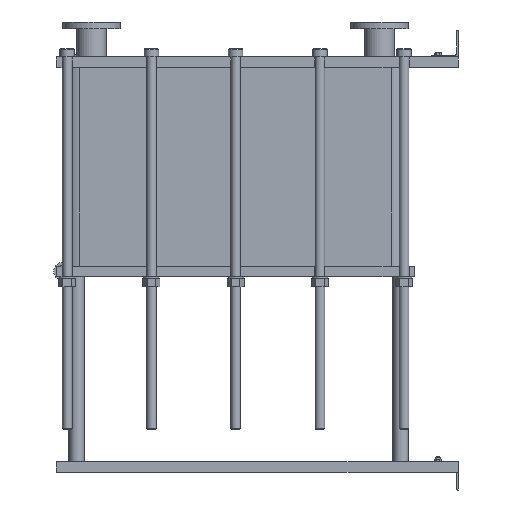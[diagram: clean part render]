
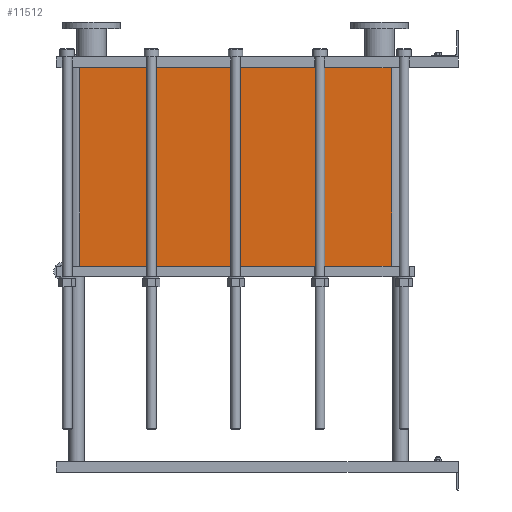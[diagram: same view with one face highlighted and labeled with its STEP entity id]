
A CAD part, left-side view. The second image highlights one B-rep face of the part: STEP entity #11512.
In plain terms, the highlighted planar face has unit normal (-1, 0, 0).
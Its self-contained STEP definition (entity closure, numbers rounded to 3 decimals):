
#1129=LINE('',#23232,#2102);
#1130=LINE('',#23236,#2103);
#1131=LINE('',#23238,#2104);
#1132=LINE('',#23239,#2105);
#2102=VECTOR('',#15887,10.);
#2103=VECTOR('',#15892,10.);
#2104=VECTOR('',#15893,10.);
#2105=VECTOR('',#15894,10.);
#3267=FACE_OUTER_BOUND('',#4093,.T.);
#4093=EDGE_LOOP('',(#10103,#10104,#10105,#10106));
#5642=VERTEX_POINT('',#23229);
#5643=VERTEX_POINT('',#23231);
#5644=VERTEX_POINT('',#23235);
#5645=VERTEX_POINT('',#23237);
#7159=EDGE_CURVE('',#5643,#5642,#1129,.T.);
#7161=EDGE_CURVE('',#5642,#5644,#1130,.T.);
#7162=EDGE_CURVE('',#5645,#5644,#1131,.T.);
#7163=EDGE_CURVE('',#5645,#5643,#1132,.T.);
#10103=ORIENTED_EDGE('',*,*,#7161,.T.);
#10104=ORIENTED_EDGE('',*,*,#7162,.F.);
#10105=ORIENTED_EDGE('',*,*,#7163,.T.);
#10106=ORIENTED_EDGE('',*,*,#7159,.T.);
#10857=PLANE('',#12751);
#11512=ADVANCED_FACE('',(#3267),#10857,.T.);
#12751=AXIS2_PLACEMENT_3D('',#23234,#15890,#15891);
#15887=DIRECTION('',(0.,0.,-1.));
#15890=DIRECTION('center_axis',(-1.,0.,0.));
#15891=DIRECTION('ref_axis',(0.,1.,0.));
#15892=DIRECTION('',(0.,-1.,0.));
#15893=DIRECTION('',(0.,0.,-1.));
#15894=DIRECTION('',(0.,1.,0.));
#23229=CARTESIAN_POINT('',(-200.,1414.,-741.75));
#23231=CARTESIAN_POINT('',(-200.,1414.,0.));
#23232=CARTESIAN_POINT('',(-200.,1414.,0.));
#23234=CARTESIAN_POINT('Origin',(-200.,248.,0.));
#23235=CARTESIAN_POINT('',(-200.,248.,-741.75));
#23236=CARTESIAN_POINT('',(-200.,539.5,-741.75));
#23237=CARTESIAN_POINT('',(-200.,248.,0.));
#23238=CARTESIAN_POINT('',(-200.,248.,0.));
#23239=CARTESIAN_POINT('',(-200.,248.,0.));
